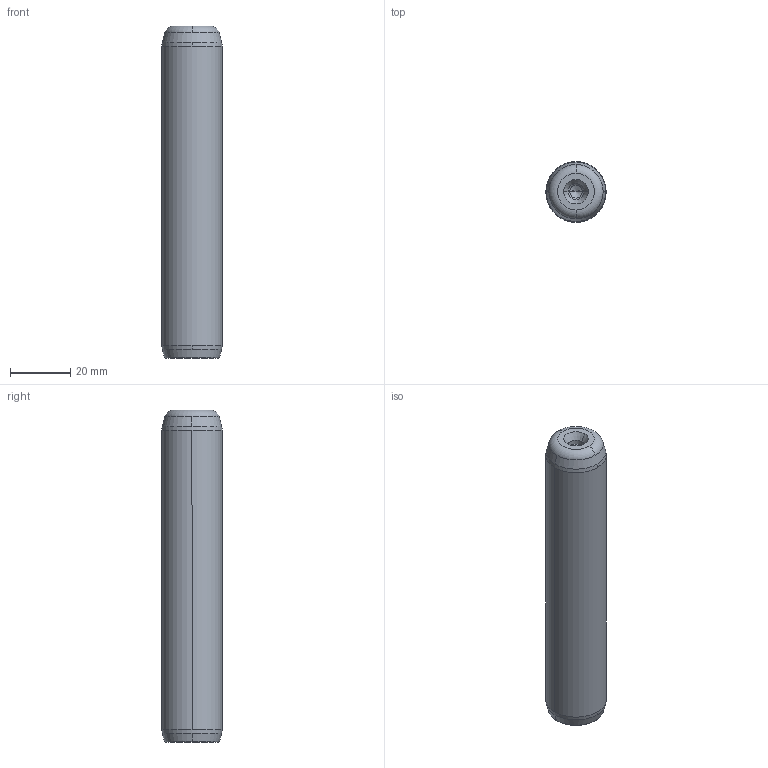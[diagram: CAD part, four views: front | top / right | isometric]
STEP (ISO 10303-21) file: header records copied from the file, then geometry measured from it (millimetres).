
FILE_DESCRIPTION((''),'2;1');
FILE_NAME('P10_020_110.stp','2008-12-23T14:28:08',(''),(''),'Mechanical Desktop 2009','Mechanical Desktop 2009',', , ');
FILE_SCHEMA(('CONFIG_CONTROL_DESIGN'));
Length unit declared in the file: millimetre
Products named in the file (5): Product; ProductAA; blmdl1; ProductA; blmdl1A
Assembly tree (2 placements, depth 3):
  Product
    ProductAA
      blmdl1
  ProductA
  blmdl1A
Bounding box: 20 x 20 x 110 mm (x, y, z)
Volume: 33807.3 mm3; surface area: 7552 mm2
Topology: 1 solids, 1 shells, 26 faces, 66 edges, 41 vertices
Faces by surface type: cone 10, cylinder 6, torus 4, bspline 4, plane 2
Entity records: 1172 total; most frequent: CARTESIAN_POINT 310, DIRECTION 162, ORIENTED_EDGE 128, AXIS2_PLACEMENT_3D 73, EDGE_CURVE 64, CIRCLE 48, VERTEX_POINT 41, EDGE_LOOP 27
